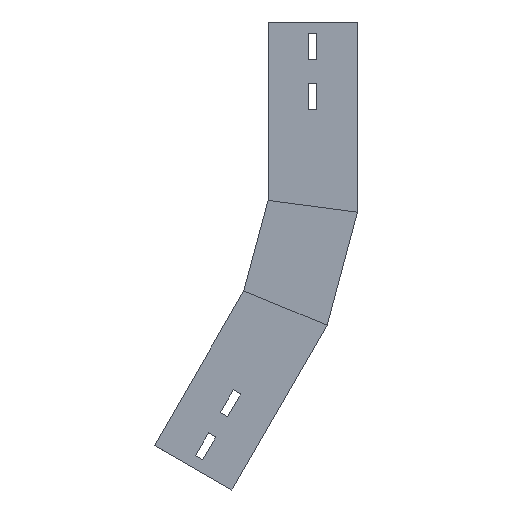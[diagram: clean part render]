
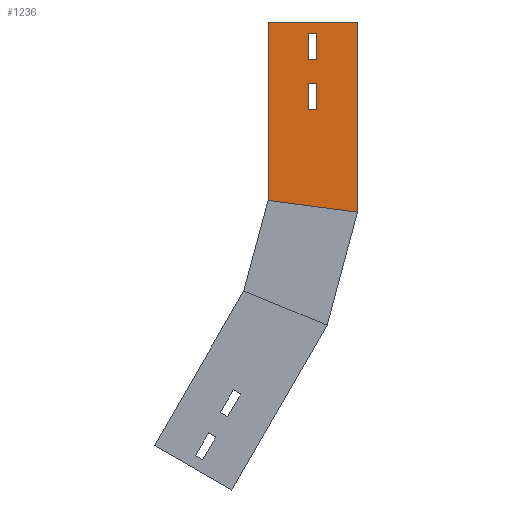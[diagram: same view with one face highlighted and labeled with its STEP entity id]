
A CAD part, left-side view. The second image highlights one B-rep face of the part: STEP entity #1236.
In plain terms, the highlighted planar face has unit normal (-1, 0, 0) as drawn and (1, 0, 0) by its records, which use the part's own axes.
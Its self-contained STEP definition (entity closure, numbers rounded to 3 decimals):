
#11 = DIRECTION ( 'NONE',  ( 0., 0., 1. ) ) ;
#28 = EDGE_CURVE ( 'NONE', #378, #191, #1274, .T. ) ;
#39 = LINE ( 'NONE', #1225, #976 ) ;
#44 = VECTOR ( 'NONE', #727, 1000. ) ;
#55 = LINE ( 'NONE', #999, #1097 ) ;
#79 = VERTEX_POINT ( 'NONE', #446 ) ;
#83 = FACE_OUTER_BOUND ( 'NONE', #443, .T. ) ;
#87 = EDGE_CURVE ( 'NONE', #1330, #1081, #474, .T. ) ;
#114 = DIRECTION ( 'NONE',  ( 0., 0.5, -0.866 ) ) ;
#127 = CARTESIAN_POINT ( 'NONE',  ( 0., 135.881, -363.937 ) ) ;
#172 = VERTEX_POINT ( 'NONE', #866 ) ;
#187 = CARTESIAN_POINT ( 'NONE',  ( 0., 115.046, -327.85 ) ) ;
#191 = VERTEX_POINT ( 'NONE', #487 ) ;
#197 = EDGE_CURVE ( 'NONE', #284, #836, #857, .T. ) ;
#229 = EDGE_CURVE ( 'NONE', #172, #378, #1213, .T. ) ;
#234 = CARTESIAN_POINT ( 'NONE',  ( 0., 108.984, -331.35 ) ) ;
#235 = EDGE_LOOP ( 'NONE', ( #816, #1109, #677, #1168 ) ) ;
#281 = CARTESIAN_POINT ( 'NONE',  ( 0., 90.394, -217.151 ) ) ;
#284 = VERTEX_POINT ( 'NONE', #542 ) ;
#290 = EDGE_LOOP ( 'NONE', ( #697, #449, #1014, #1122 ) ) ;
#291 = DIRECTION ( 'NONE',  ( 0., -0.5, 0.866 ) ) ;
#321 = CARTESIAN_POINT ( 'NONE',  ( 0., 104.046, -308.798 ) ) ;
#354 = ORIENTED_EDGE ( 'NONE', *, *, #28, .T. ) ;
#360 = CARTESIAN_POINT ( 'NONE',  ( 0., 129.819, -367.437 ) ) ;
#378 = VERTEX_POINT ( 'NONE', #1138 ) ;
#389 = CARTESIAN_POINT ( 'NONE',  ( 0., 95.331, -225.702 ) ) ;
#390 = DIRECTION ( 'NONE',  ( 0., 0.5, -0.866 ) ) ;
#397 = CARTESIAN_POINT ( 'NONE',  ( 0., 129.819, -367.437 ) ) ;
#425 = FACE_BOUND ( 'NONE', #290, .T. ) ;
#429 = DIRECTION ( 'NONE',  ( 0., -0.924, -0.383 ) ) ;
#434 = CARTESIAN_POINT ( 'NONE',  ( 0., 37.296, -249.74 ) ) ;
#442 = VECTOR ( 'NONE', #114, 1000. ) ;
#443 = EDGE_LOOP ( 'NONE', ( #620, #929, #354, #1226 ) ) ;
#446 = CARTESIAN_POINT ( 'NONE',  ( 0., 97.984, -312.298 ) ) ;
#449 = ORIENTED_EDGE ( 'NONE', *, *, #1391, .F. ) ;
#474 = LINE ( 'NONE', #127, #1465 ) ;
#487 = CARTESIAN_POINT ( 'NONE',  ( 0., 170.244, -355.455 ) ) ;
#507 = LINE ( 'NONE', #638, #1017 ) ;
#518 = CARTESIAN_POINT ( 'NONE',  ( 0., 135.881, -363.937 ) ) ;
#542 = CARTESIAN_POINT ( 'NONE',  ( 0., 118.819, -348.385 ) ) ;
#605 = LINE ( 'NONE', #281, #44 ) ;
#611 = VERTEX_POINT ( 'NONE', #389 ) ;
#612 = CARTESIAN_POINT ( 'NONE',  ( 0., 115.046, -327.85 ) ) ;
#620 = ORIENTED_EDGE ( 'NONE', *, *, #1165, .T. ) ;
#638 = CARTESIAN_POINT ( 'NONE',  ( 0., 104.046, -308.798 ) ) ;
#663 = LINE ( 'NONE', #434, #1207 ) ;
#677 = ORIENTED_EDGE ( 'NONE', *, *, #197, .F. ) ;
#679 = LINE ( 'NONE', #1155, #442 ) ;
#697 = ORIENTED_EDGE ( 'NONE', *, *, #978, .F. ) ;
#711 = EDGE_CURVE ( 'NONE', #836, #1330, #1269, .T. ) ;
#724 = CARTESIAN_POINT ( 'NONE',  ( 0., 25.442, -254.651 ) ) ;
#727 = DIRECTION ( 'NONE',  ( 0., 0.5, -0.866 ) ) ;
#796 = EDGE_CURVE ( 'NONE', #79, #1362, #679, .T. ) ;
#816 = ORIENTED_EDGE ( 'NONE', *, *, #87, .F. ) ;
#827 = DIRECTION ( 'NONE',  ( 0., -0.5, 0.866 ) ) ;
#836 = VERTEX_POINT ( 'NONE', #360 ) ;
#843 = CARTESIAN_POINT ( 'NONE',  ( 0., 124.881, -344.885 ) ) ;
#857 = LINE ( 'NONE', #397, #1024 ) ;
#866 = CARTESIAN_POINT ( 'NONE',  ( 0., 25.442, -254.651 ) ) ;
#929 = ORIENTED_EDGE ( 'NONE', *, *, #229, .T. ) ;
#931 = DIRECTION ( 'NONE',  ( -1., 0., 0. ) ) ;
#953 = DIRECTION ( 'NONE',  ( 0., 0.5, -0.866 ) ) ;
#964 = EDGE_CURVE ( 'NONE', #1081, #284, #55, .T. ) ;
#976 = VECTOR ( 'NONE', #1310, 1000. ) ;
#978 = EDGE_CURVE ( 'NONE', #1113, #1139, #1448, .T. ) ;
#999 = CARTESIAN_POINT ( 'NONE',  ( 0., 124.881, -344.885 ) ) ;
#1005 = FACE_BOUND ( 'NONE', #235, .T. ) ;
#1011 = PLANE ( 'NONE',  #1471 ) ;
#1014 = ORIENTED_EDGE ( 'NONE', *, *, #796, .F. ) ;
#1017 = VECTOR ( 'NONE', #1432, 1000. ) ;
#1024 = VECTOR ( 'NONE', #390, 1000. ) ;
#1034 = EDGE_CURVE ( 'NONE', #1139, #79, #507, .T. ) ;
#1062 = DIRECTION ( 'NONE',  ( 0., 0.866, 0.5 ) ) ;
#1070 = VECTOR ( 'NONE', #1062, 1000. ) ;
#1081 = VERTEX_POINT ( 'NONE', #843 ) ;
#1097 = VECTOR ( 'NONE', #1114, 1000. ) ;
#1108 = EDGE_CURVE ( 'NONE', #611, #191, #605, .T. ) ;
#1109 = ORIENTED_EDGE ( 'NONE', *, *, #711, .F. ) ;
#1113 = VERTEX_POINT ( 'NONE', #612 ) ;
#1114 = DIRECTION ( 'NONE',  ( 0., -0.866, -0.5 ) ) ;
#1122 = ORIENTED_EDGE ( 'NONE', *, *, #1034, .F. ) ;
#1126 = VECTOR ( 'NONE', #953, 1000. ) ;
#1138 = CARTESIAN_POINT ( 'NONE',  ( 0., 105.292, -392.955 ) ) ;
#1139 = VERTEX_POINT ( 'NONE', #321 ) ;
#1141 = DIRECTION ( 'NONE',  ( 0., 0.866, 0.5 ) ) ;
#1155 = CARTESIAN_POINT ( 'NONE',  ( 0., 108.984, -331.35 ) ) ;
#1160 = CARTESIAN_POINT ( 'NONE',  ( 0., 25.442, -254.651 ) ) ;
#1165 = EDGE_CURVE ( 'NONE', #611, #172, #663, .T. ) ;
#1168 = ORIENTED_EDGE ( 'NONE', *, *, #964, .F. ) ;
#1183 = CARTESIAN_POINT ( 'NONE',  ( 0., 135.881, -363.937 ) ) ;
#1207 = VECTOR ( 'NONE', #429, 1000. ) ;
#1213 = LINE ( 'NONE', #724, #1126 ) ;
#1225 = CARTESIAN_POINT ( 'NONE',  ( 0., 115.046, -327.85 ) ) ;
#1226 = ORIENTED_EDGE ( 'NONE', *, *, #1108, .F. ) ;
#1236 = ADVANCED_FACE ( 'NONE', ( #1005, #425, #83 ), #1011, .F. ) ;
#1269 = LINE ( 'NONE', #518, #1422 ) ;
#1274 = LINE ( 'NONE', #1379, #1070 ) ;
#1285 = VECTOR ( 'NONE', #291, 1000. ) ;
#1310 = DIRECTION ( 'NONE',  ( 0., 0.866, 0.5 ) ) ;
#1330 = VERTEX_POINT ( 'NONE', #1183 ) ;
#1362 = VERTEX_POINT ( 'NONE', #234 ) ;
#1379 = CARTESIAN_POINT ( 'NONE',  ( 0., 105.292, -392.955 ) ) ;
#1391 = EDGE_CURVE ( 'NONE', #1362, #1113, #39, .T. ) ;
#1422 = VECTOR ( 'NONE', #1141, 1000. ) ;
#1432 = DIRECTION ( 'NONE',  ( 0., -0.866, -0.5 ) ) ;
#1448 = LINE ( 'NONE', #187, #1285 ) ;
#1465 = VECTOR ( 'NONE', #827, 1000. ) ;
#1471 = AXIS2_PLACEMENT_3D ( 'NONE', #1160, #931, #11 ) ;
